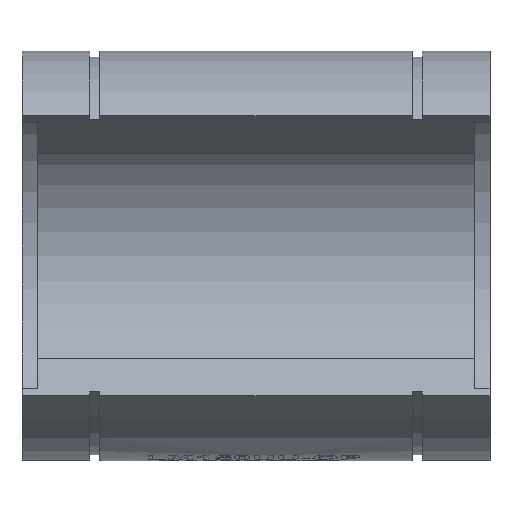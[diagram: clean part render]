
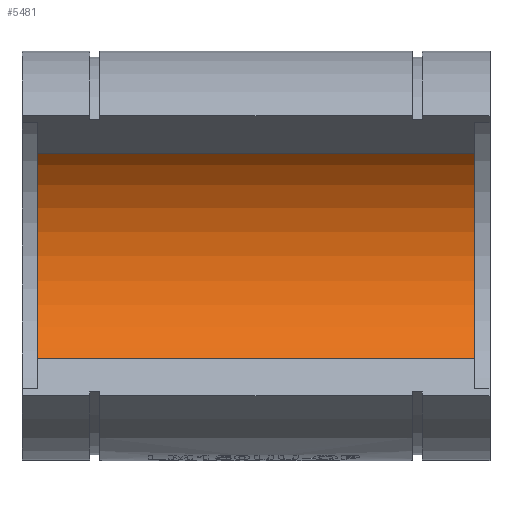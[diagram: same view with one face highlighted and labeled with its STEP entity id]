
A CAD part, top view. The second image highlights one B-rep face of the part: STEP entity #5481.
In plain terms, the highlighted cylindrical face has radius 75 mm (diameter 150 mm), a partial arc.
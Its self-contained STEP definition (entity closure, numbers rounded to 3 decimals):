
#363=CIRCLE('',#5897,75.);
#364=CIRCLE('',#5898,75.);
#540=LINE('',#8821,#1006);
#541=LINE('',#8825,#1007);
#1006=VECTOR('',#6450,1000.);
#1007=VECTOR('',#6453,1000.);
#1631=ORIENTED_EDGE('',*,*,#3295,.F.);
#1632=ORIENTED_EDGE('',*,*,#3296,.T.);
#1633=ORIENTED_EDGE('',*,*,#3297,.F.);
#1634=ORIENTED_EDGE('',*,*,#3298,.F.);
#3295=EDGE_CURVE('',#4127,#4128,#363,.F.);
#3296=EDGE_CURVE('',#4127,#4129,#540,.T.);
#3297=EDGE_CURVE('',#4130,#4129,#364,.F.);
#3298=EDGE_CURVE('',#4128,#4130,#541,.T.);
#4127=VERTEX_POINT('',#8819);
#4128=VERTEX_POINT('',#8820);
#4129=VERTEX_POINT('',#8822);
#4130=VERTEX_POINT('',#8824);
#4686=EDGE_LOOP('',(#1631,#1632,#1633,#1634));
#5074=FACE_BOUND('',#4686,.T.);
#5422=CYLINDRICAL_SURFACE('',#5896,75.);
#5481=ADVANCED_FACE('',(#5074),#5422,.F.);
#5896=AXIS2_PLACEMENT_3D('',#8817,#6446,#6447);
#5897=AXIS2_PLACEMENT_3D('',#8818,#6448,#6449);
#5898=AXIS2_PLACEMENT_3D('',#8823,#6451,#6452);
#6446=DIRECTION('',(1.,0.,0.));
#6447=DIRECTION('',(0.,0.,-1.));
#6448=DIRECTION('',(-1.,0.,0.));
#6449=DIRECTION('',(0.,0.,1.));
#6450=DIRECTION('',(1.,0.,0.));
#6451=DIRECTION('',(1.,0.,0.));
#6452=DIRECTION('',(0.,0.,-1.));
#6453=DIRECTION('',(1.,0.,0.));
#8817=CARTESIAN_POINT('',(-120.,0.,0.));
#8818=CARTESIAN_POINT('',(-112.,0.,0.));
#8819=CARTESIAN_POINT('',(-112.,-52.5,53.561));
#8820=CARTESIAN_POINT('',(-112.,52.5,53.561));
#8821=CARTESIAN_POINT('',(-120.001,-52.5,53.561));
#8822=CARTESIAN_POINT('',(112.,-52.5,53.561));
#8823=CARTESIAN_POINT('',(112.,0.,0.));
#8824=CARTESIAN_POINT('',(112.,52.5,53.561));
#8825=CARTESIAN_POINT('',(-120.001,52.5,53.561));
